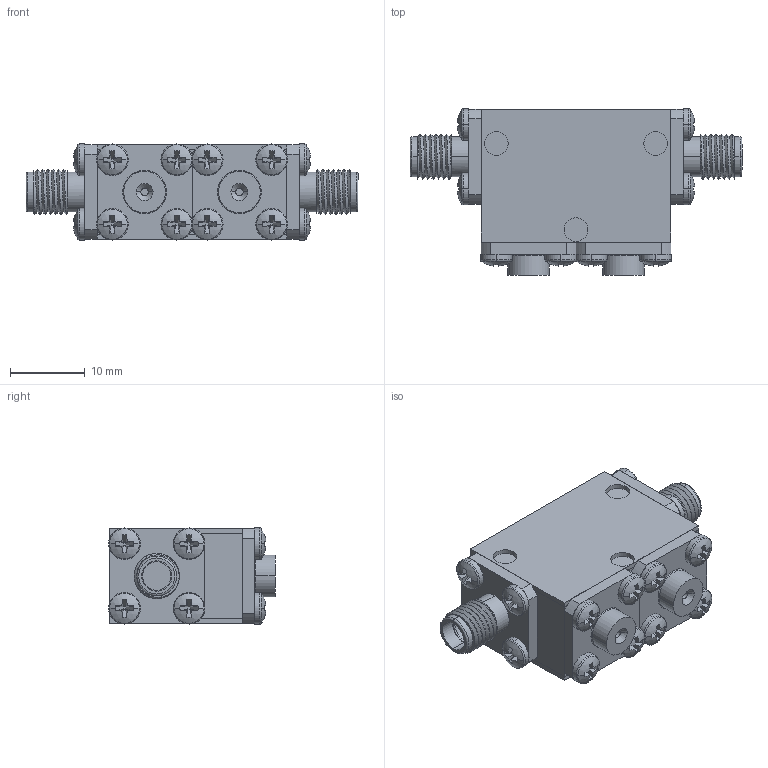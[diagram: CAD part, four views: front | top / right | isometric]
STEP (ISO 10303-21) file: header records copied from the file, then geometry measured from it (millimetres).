
FILE_DESCRIPTION (( 'STEP AP214' ), '1' );
FILE_NAME ('Package 16 Iso FF.step', '2021-12-01T20:58:39', ( '' ), ( '' ), 'SwSTEP 2.0', 'SolidWorks 2016', '' );
FILE_SCHEMA (( 'AUTOMOTIVE_DESIGN' ));
Length unit declared in the file: inch
Products named in the file (6): pan cross head_ai_CR-PHMS 0.086-56x0.125x0.125-N; 030013-1A Same Base thickness as connectors; Delta SMA-Female 0.500 flange Threaded; Package 16; Package 16 Iso FF; Package Size 16
Assembly tree (22 placements, depth 2):
  Package 16 Iso FF
    Package 16
    Delta SMA-Female 0.500 flange Threaded  x2
    pan cross head_ai_CR-PHMS 0.086-56x0.125x0.125-N  x16
    030013-1A Same Base thickness as connectors  x2
    Package Size 16
Bounding box: 44.45 x 22.31 x 12.88 mm (x, y, z)
Volume: 7279.3 mm3; surface area: 7686 mm2
Topology: 22 solids, 22 shells, 538 faces, 1222 edges, 754 vertices
Faces by surface type: plane 296, cylinder 156, torus 40, sphere 32, cone 8, bspline 6
Entity records: 4805 total; most frequent: CARTESIAN_POINT 1374, DIRECTION 727, ORIENTED_EDGE 594, EDGE_CURVE 297, AXIS2_PLACEMENT_3D 294, VERTEX_POINT 191, EDGE_LOOP 160, CIRCLE 150
